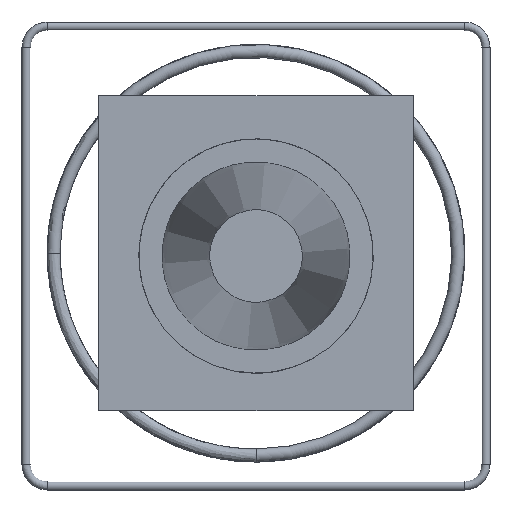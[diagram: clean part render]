
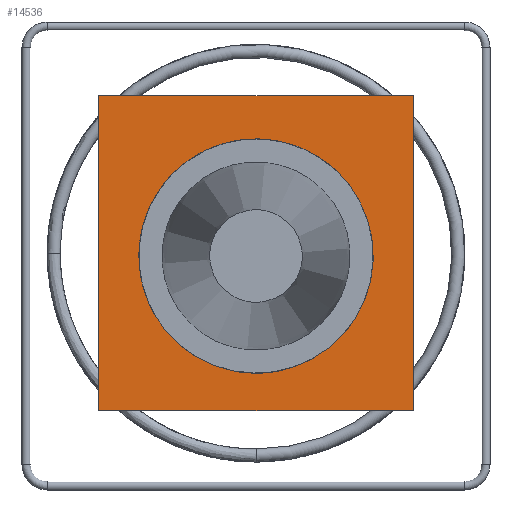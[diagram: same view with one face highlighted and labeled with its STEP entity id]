
A CAD part, left-side view. The second image highlights one B-rep face of the part: STEP entity #14536.
In plain terms, the highlighted planar face has unit normal (-1, 0, 0).
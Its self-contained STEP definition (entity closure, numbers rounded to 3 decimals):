
#1475=PLANE('',#15298);
#2385=LINE('',#40958,#3305);
#2389=LINE('',#40965,#3309);
#2392=LINE('',#40970,#3312);
#2395=LINE('',#40974,#3315);
#3305=VECTOR('',#17696,595.);
#3309=VECTOR('',#17702,595.);
#3312=VECTOR('',#17707,595.);
#3315=VECTOR('',#17712,595.);
#3587=FACE_BOUND('',#5395,.T.);
#4421=FACE_OUTER_BOUND('',#5394,.T.);
#5394=EDGE_LOOP('',(#13395,#13396,#13397,#13398));
#5395=EDGE_LOOP('',(#13399));
#5768=CIRCLE('',#15227,221.5);
#7178=VERTEX_POINT('',#34701);
#7209=VERTEX_POINT('',#40956);
#7210=VERTEX_POINT('',#40957);
#7212=VERTEX_POINT('',#40964);
#7213=VERTEX_POINT('',#40969);
#9245=EDGE_CURVE('',#7178,#7178,#5768,.T.);
#9278=EDGE_CURVE('',#7209,#7210,#2385,.T.);
#9282=EDGE_CURVE('',#7210,#7212,#2389,.T.);
#9285=EDGE_CURVE('',#7212,#7213,#2392,.T.);
#9288=EDGE_CURVE('',#7213,#7209,#2395,.T.);
#13395=ORIENTED_EDGE('',*,*,#9288,.T.);
#13396=ORIENTED_EDGE('',*,*,#9278,.T.);
#13397=ORIENTED_EDGE('',*,*,#9282,.T.);
#13398=ORIENTED_EDGE('',*,*,#9285,.T.);
#13399=ORIENTED_EDGE('',*,*,#9245,.T.);
#14536=ADVANCED_FACE('',(#4421,#3587),#1475,.T.);
#15227=AXIS2_PLACEMENT_3D('',#34702,#17554,#17555);
#15298=AXIS2_PLACEMENT_3D('',#40976,#17714,#17715);
#17554=DIRECTION('center_axis',(1.,0.,0.));
#17555=DIRECTION('ref_axis',(0.,0.773,-0.634));
#17696=DIRECTION('',(0.,0.,-1.));
#17702=DIRECTION('',(0.,-1.,0.));
#17707=DIRECTION('',(0.,0.,1.));
#17712=DIRECTION('',(0.,1.,0.));
#17714=DIRECTION('center_axis',(-1.,0.,0.));
#17715=DIRECTION('ref_axis',(0.,0.,-1.));
#34701=CARTESIAN_POINT('',(-112.151,171.272,-140.457));
#34702=CARTESIAN_POINT('Origin',(-112.151,0.,
0.));
#40956=CARTESIAN_POINT('',(-112.151,297.5,302.753));
#40957=CARTESIAN_POINT('',(-112.151,297.5,-292.247));
#40958=CARTESIAN_POINT('',(-112.151,297.5,302.753));
#40964=CARTESIAN_POINT('',(-112.151,-297.5,-292.247));
#40965=CARTESIAN_POINT('',(-112.151,297.5,-292.247));
#40969=CARTESIAN_POINT('',(-112.151,-297.5,302.753));
#40970=CARTESIAN_POINT('',(-112.151,-297.5,-292.247));
#40974=CARTESIAN_POINT('',(-112.151,-297.5,302.753));
#40976=CARTESIAN_POINT('Origin',(-112.151,0.,
5.253));
